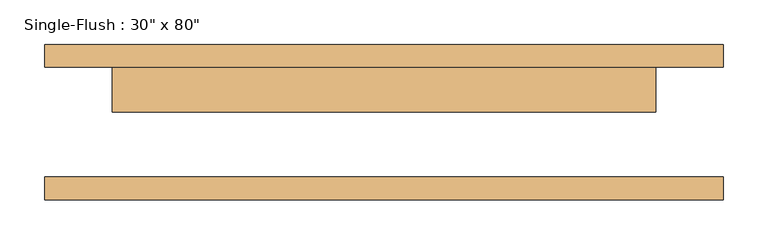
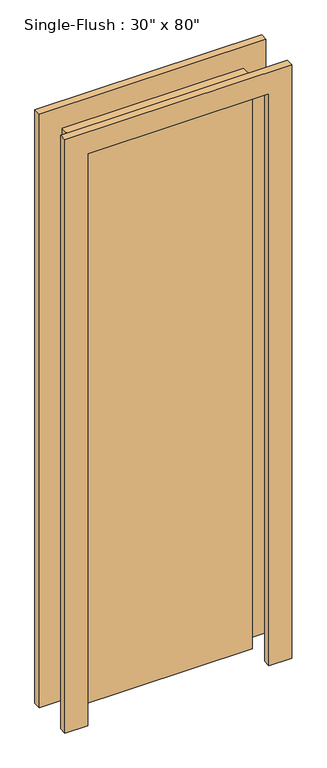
"""IFC4 building model written with IfcOpenShell, lengths in millimetres: door geometry."""

from ifc_helpers import new_model, si_unit, frame, origin, origin_with_axes, place, context, project, spatial, polyline, outline, extrude, source, transform, mapped, element, save


def door_808f2bda(model_context):
    return source(origin(), model_context, "Body", "SweptSolid", [
        extrude(outline(polyline([(2108.2, -381.0), (0.0, -381.0), (0.0, -304.8), (2032.0, -304.8), (2032.0, 304.8), (0.0, 304.8), (0.0, 381.0), (2108.2, 381.0), (2108.2, -381.0)])), frame((0.0, 61.9125, 0.0), z_axis=(0.0, 1.0, 0.0), x_axis=(0.0, 0.0, 1.0)), (0.0, 0.0, 1.0), 25.4),
        extrude(outline(polyline([(2108.2, 381.0), (2108.2, -381.0), (0.0, -381.0), (0.0, -304.8), (2032.0, -304.8), (2032.0, 304.8), (0.0, 304.8), (0.0, 381.0), (2108.2, 381.0)])), frame((0.0, -87.3125, 0.0), z_axis=(0.0, 1.0, 0.0), x_axis=(0.0, 0.0, 1.0)), (0.0, 0.0, 1.0), 25.4),
        extrude(outline(polyline([(304.8, 11.1125), (-304.8, 11.1125), (-304.8, 61.9125), (304.8, 61.9125), (304.8, 11.1125)])), origin_with_axes(), (0.0, 0.0, 1.0), 2032.0),
    ])


if __name__ == "__main__":
    model = new_model("IFC4")
    model_context = context("Model", 3, world=origin())
    ifc_project = project(units=[si_unit("LENGTHUNIT", "METRE", prefix="MILLI")], contexts=[model_context])
    site = spatial("IfcSite", under=ifc_project)
    building = spatial("IfcBuilding", under=site)
    placement = place(None, origin())
    door_shape = door_808f2bda(model_context)
    element("IfcDoor", 1, ObjectType="Single-Flush : 30\" x 80\"", at=placement, inside=building, context=model_context, shape_type="MappedRepresentation", body=[
        mapped(door_shape, transform((0.0, 0.0, 0.0), x_axis=(1.0, 0.0, 0.0), y_axis=(0.0, 1.0, 0.0), z_axis=(0.0, 0.0, 1.0))),
    ])
    save(model, "model.ifc")
